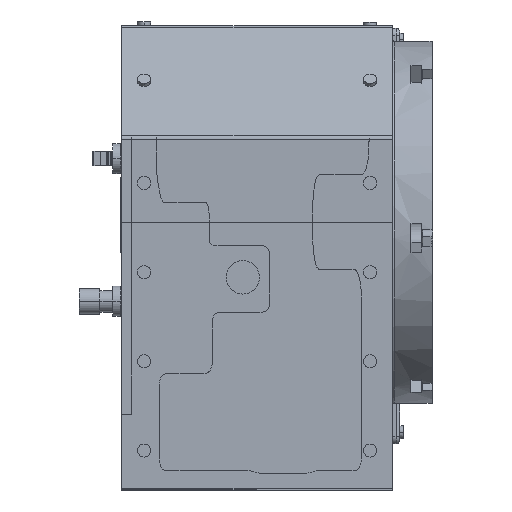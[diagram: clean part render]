
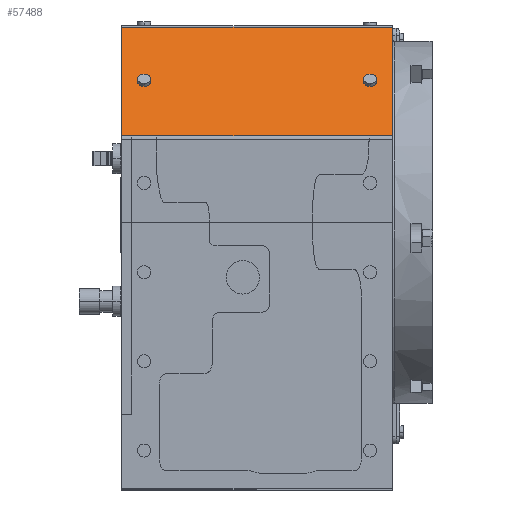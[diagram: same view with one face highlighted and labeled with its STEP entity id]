
A CAD part, left-side view. The second image highlights one B-rep face of the part: STEP entity #57488.
In plain terms, the highlighted planar face has unit normal (-0.707, 0, 0.707) as drawn and (-0.707, 0.707, 0) by its records, which use the part's own axes.
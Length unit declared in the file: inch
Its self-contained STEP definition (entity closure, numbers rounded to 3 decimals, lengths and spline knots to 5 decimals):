
#1466 = LINE ( 'NONE', #28506, #25079 ) ;
#2191 = LINE ( 'NONE', #35358, #40155 ) ;
#4162 = DIRECTION ( 'NONE',  ( 0.707, 0.707, 0. ) ) ;
#4991 = ORIENTED_EDGE ( 'NONE', *, *, #29436, .F. ) ;
#6565 = EDGE_CURVE ( 'NONE', #67432, #47945, #38173, .T. ) ;
#8149 = ORIENTED_EDGE ( 'NONE', *, *, #12218, .F. ) ;
#9927 = LINE ( 'NONE', #23491, #56817 ) ;
#10712 = FACE_BOUND ( 'NONE', #15262, .T. ) ;
#11914 = DIRECTION ( 'NONE',  ( -0.707, 0.707, 0. ) ) ;
#12218 = EDGE_CURVE ( 'NONE', #80348, #31123, #48455, .T. ) ;
#12362 = DIRECTION ( 'NONE',  ( 0.707, 0.707, 0. ) ) ;
#12965 = CARTESIAN_POINT ( 'NONE',  ( -4.88324, 4.57423, 8.56 ) ) ;
#15262 = EDGE_LOOP ( 'NONE', ( #29059, #4991 ) ) ;
#16406 = FACE_OUTER_BOUND ( 'NONE', #25128, .T. ) ;
#16580 = AXIS2_PLACEMENT_3D ( 'NONE', #73331, #58143, #71294 ) ;
#17219 = DIRECTION ( 'NONE',  ( -0.707, 0.707, 0. ) ) ;
#17712 = CARTESIAN_POINT ( 'NONE',  ( -2.89975, 6.55772, 0.21 ) ) ;
#17767 = DIRECTION ( 'NONE',  ( 0.707, 0.707, 0. ) ) ;
#18385 = EDGE_LOOP ( 'NONE', ( #33514, #8149 ) ) ;
#20020 = VERTEX_POINT ( 'NONE', #72697 ) ;
#21393 = EDGE_CURVE ( 'NONE', #20020, #41694, #2191, .T. ) ;
#23491 = CARTESIAN_POINT ( 'NONE',  ( -2.89975, 6.55772, 0.21 ) ) ;
#23592 = ORIENTED_EDGE ( 'NONE', *, *, #21393, .F. ) ;
#23830 = DIRECTION ( 'NONE',  ( 0.707, -0.707, 0. ) ) ;
#25079 = VECTOR ( 'NONE', #42038, 39.37008 ) ;
#25128 = EDGE_LOOP ( 'NONE', ( #81744, #23592, #68567, #74923 ) ) ;
#25500 = DIRECTION ( 'NONE',  ( 0.707, 0.707, 0. ) ) ;
#28506 = CARTESIAN_POINT ( 'NONE',  ( -6.55394, 2.90353, 0.21 ) ) ;
#29059 = ORIENTED_EDGE ( 'NONE', *, *, #6565, .F. ) ;
#29436 = EDGE_CURVE ( 'NONE', #47945, #67432, #80296, .T. ) ;
#30357 = EDGE_CURVE ( 'NONE', #41694, #82912, #9927, .T. ) ;
#30461 = DIRECTION ( 'NONE',  ( 0., 0., 1. ) ) ;
#30569 = CIRCLE ( 'NONE', #16580, 0.2185 ) ;
#31123 = VERTEX_POINT ( 'NONE', #12965 ) ;
#33514 = ORIENTED_EDGE ( 'NONE', *, *, #67592, .F. ) ;
#35358 = CARTESIAN_POINT ( 'NONE',  ( -6.57708, 2.88039, 0.21 ) ) ;
#36061 = FACE_BOUND ( 'NONE', #18385, .T. ) ;
#37182 = AXIS2_PLACEMENT_3D ( 'NONE', #58655, #79138, #25500 ) ;
#38173 = CIRCLE ( 'NONE', #54902, 0.2185 ) ;
#40155 = VECTOR ( 'NONE', #17767, 39.37008 ) ;
#41694 = VERTEX_POINT ( 'NONE', #17712 ) ;
#42038 = DIRECTION ( 'NONE',  ( 0., 0., 1. ) ) ;
#42101 = CARTESIAN_POINT ( 'NONE',  ( -2.89975, 6.55772, 9.31 ) ) ;
#43444 = CARTESIAN_POINT ( 'NONE',  ( -4.72816, 4.72931, 4.76 ) ) ;
#44796 = CARTESIAN_POINT ( 'NONE',  ( -2.87661, 6.58086, 9.31 ) ) ;
#47038 = CARTESIAN_POINT ( 'NONE',  ( -6.55394, 2.90353, 9.31 ) ) ;
#47945 = VERTEX_POINT ( 'NONE', #70244 ) ;
#48455 = CIRCLE ( 'NONE', #80431, 0.2185 ) ;
#54902 = AXIS2_PLACEMENT_3D ( 'NONE', #58588, #11914, #12362 ) ;
#56817 = VECTOR ( 'NONE', #30461, 39.37008 ) ;
#57488 = ADVANCED_FACE ( 'NONE', ( #36061, #10712, #16406 ), #83576, .F. ) ;
#58143 = DIRECTION ( 'NONE',  ( -0.707, 0.707, 0. ) ) ;
#58588 = CARTESIAN_POINT ( 'NONE',  ( -4.72873, 4.72873, 0.96 ) ) ;
#58655 = CARTESIAN_POINT ( 'NONE',  ( -4.72873, 4.72873, 0.96 ) ) ;
#60385 = VECTOR ( 'NONE', #71443, 39.37008 ) ;
#61534 = VERTEX_POINT ( 'NONE', #47038 ) ;
#67432 = VERTEX_POINT ( 'NONE', #74825 ) ;
#67592 = EDGE_CURVE ( 'NONE', #31123, #80348, #30569, .T. ) ;
#67820 = AXIS2_PLACEMENT_3D ( 'NONE', #43444, #23830, #76217 ) ;
#68567 = ORIENTED_EDGE ( 'NONE', *, *, #81426, .T. ) ;
#70244 = CARTESIAN_POINT ( 'NONE',  ( -4.57423, 4.88324, 0.96 ) ) ;
#71294 = DIRECTION ( 'NONE',  ( 0.707, 0.707, 0. ) ) ;
#71443 = DIRECTION ( 'NONE',  ( -0.707, -0.707, 0. ) ) ;
#72697 = CARTESIAN_POINT ( 'NONE',  ( -6.55394, 2.90353, 0.21 ) ) ;
#73331 = CARTESIAN_POINT ( 'NONE',  ( -4.72873, 4.72873, 8.56 ) ) ;
#74825 = CARTESIAN_POINT ( 'NONE',  ( -4.88324, 4.57423, 0.96 ) ) ;
#74923 = ORIENTED_EDGE ( 'NONE', *, *, #77111, .F. ) ;
#76217 = DIRECTION ( 'NONE',  ( 0.707, 0.707, 0. ) ) ;
#76997 = CARTESIAN_POINT ( 'NONE',  ( -4.72873, 4.72873, 8.56 ) ) ;
#77111 = EDGE_CURVE ( 'NONE', #82912, #61534, #77964, .T. ) ;
#77964 = LINE ( 'NONE', #44796, #60385 ) ;
#79138 = DIRECTION ( 'NONE',  ( -0.707, 0.707, 0. ) ) ;
#80296 = CIRCLE ( 'NONE', #37182, 0.2185 ) ;
#80348 = VERTEX_POINT ( 'NONE', #84961 ) ;
#80431 = AXIS2_PLACEMENT_3D ( 'NONE', #76997, #17219, #4162 ) ;
#81426 = EDGE_CURVE ( 'NONE', #20020, #61534, #1466, .T. ) ;
#81744 = ORIENTED_EDGE ( 'NONE', *, *, #30357, .F. ) ;
#82912 = VERTEX_POINT ( 'NONE', #42101 ) ;
#83576 = PLANE ( 'NONE',  #67820 ) ;
#84961 = CARTESIAN_POINT ( 'NONE',  ( -4.57423, 4.88324, 8.56 ) ) ;
